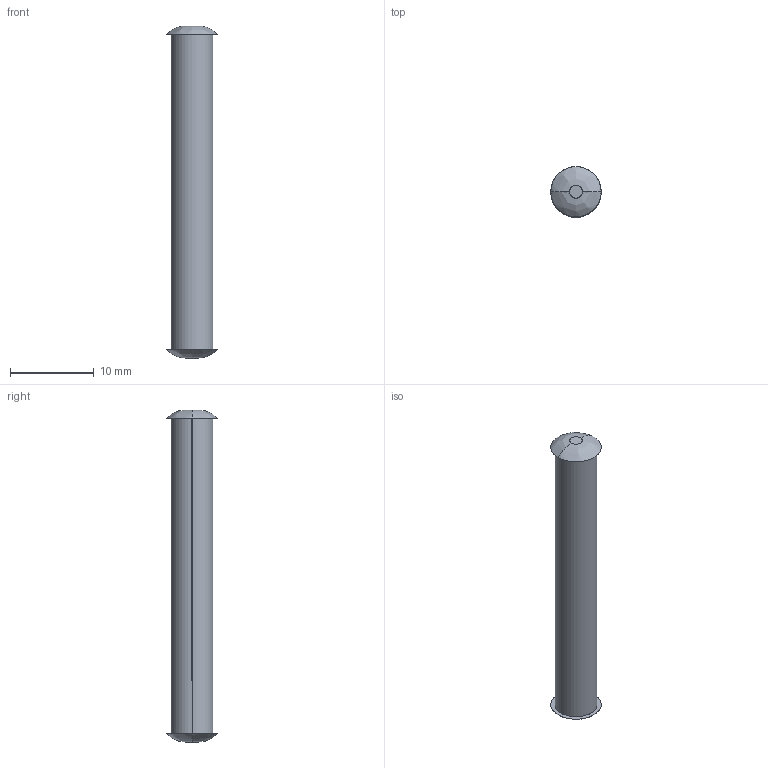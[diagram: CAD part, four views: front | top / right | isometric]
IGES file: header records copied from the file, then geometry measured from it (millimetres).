
Start section: SolidWorks IGES FILE using analytic representation for surfaces
Global section: file name: C:\Documents and Settings\lecoutey\Bureau\GR 88\55.120.10.IGS; native system: SolidWorks 2004 by SolidWorks Corporation; preprocessor: Version 5.3; author: lecoutey; date: 050405.090529; units: millimetre
Bounding box: 6 x 6 x 39.6 mm (x, y, z)
Surface area: 673.5 mm2 (no closed solid volume)
Topology: 0 solids, 0 shells, 10 faces, 184 edges, 184 vertices
Faces by surface type: bspline 8, revolution 2
